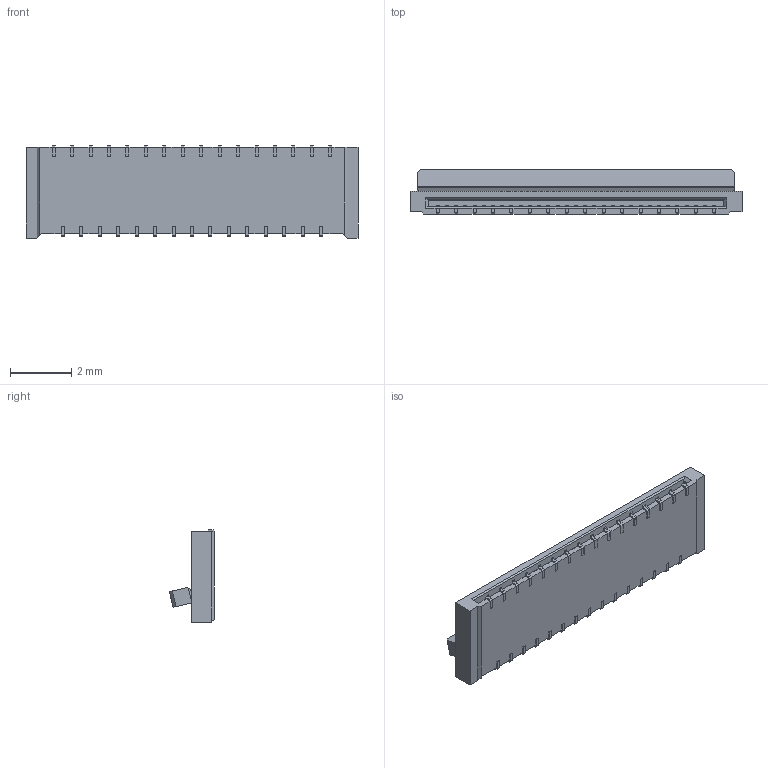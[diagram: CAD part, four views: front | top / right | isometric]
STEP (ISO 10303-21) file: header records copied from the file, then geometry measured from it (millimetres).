
FILE_DESCRIPTION((''),'2;1');
FILE_NAME('5047543120','2019-04-10T',('gga'),(''),'PRO/ENGINEER BY PARAMETRIC TECHNOLOGY CORPORATION, 2016010','PRO/ENGINEER BY PARAMETRIC TECHNOLOGY CORPORATION, 2016010','');
FILE_SCHEMA(('CONFIG_CONTROL_DESIGN'));
Length unit declared in the file: millimetre
Products named in the file (1): 5047543120
Bounding box: 10.8 x 1.47 x 3 mm (x, y, z)
Volume: 18.6 mm3; surface area: 146.5 mm2
Topology: 1 solids, 1 shells, 1240 faces, 3794 edges, 2558 vertices
Faces by surface type: plane 973, cylinder 267
Entity records: 41967 total; most frequent: CARTESIAN_POINT 7474, ORIENTED_EDGE 7340, DIRECTION 6808, EDGE_CURVE 3670, VECTOR 3258, LINE 3258, VERTEX_POINT 2434, AXIS2_PLACEMENT_3D 1775
